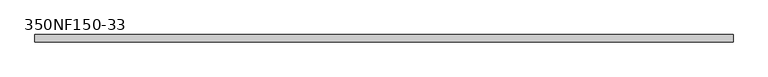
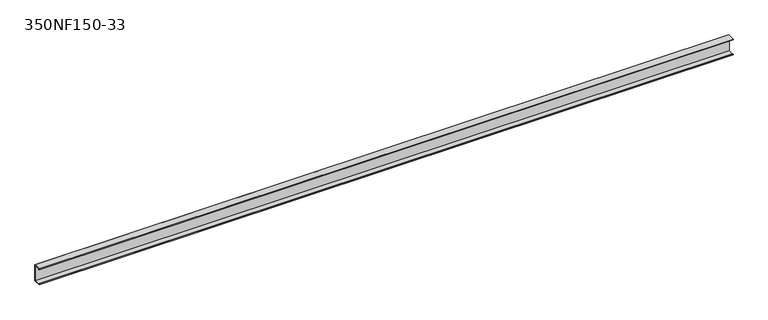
"""IFC4 building model written with IfcOpenShell, lengths in millimetres: beam geometry, BIMSF-SSMA-S : 350NF150-33."""

from ifc_helpers import new_model, si_unit, frame, origin, place, context, project, spatial, polyline, outline, extrude, source, transform, mapped, element, save


def beam_350nf150_33_a9979069(model_context):
    return source(origin(), model_context, "Body", "SweptSolid", [
        extrude(outline(polyline([(19.05, 44.45), (19.05, -44.45), (-19.05, -44.45), (-19.05, -39.6748), (-18.1676842, -39.6748), (-18.1676842, -43.5676842), (18.1676842, -43.5676842), (18.1676842, 43.5676842), (-18.1676842, 43.5676842), (-18.1676842, 39.6748), (-19.05, 39.6748), (-19.05, 44.45), (19.05, 44.45)])), frame((-1843.2130348, 0.0, 0.0), z_axis=(1.0, 0.0, 0.0), x_axis=(0.0, 1.0, 0.0)), (0.0, 0.0, 1.0), 3686.4260696),
    ])


if __name__ == "__main__":
    model = new_model("IFC4")
    model_context = context("Model", 3, world=origin())
    ifc_project = project(units=[si_unit("LENGTHUNIT", "METRE", prefix="MILLI")], contexts=[model_context])
    site = spatial("IfcSite", under=ifc_project)
    building = spatial("IfcBuilding", under=site)
    placement = place(None, origin())
    beam_350nf150_33_shape = beam_350nf150_33_a9979069(model_context)
    element("IfcBeam", 1, ObjectType="BIMSF-SSMA-S : 350NF150-33", at=placement, inside=building, context=model_context, shape_type="MappedRepresentation", body=[
        mapped(beam_350nf150_33_shape, transform((0.0, 0.0, 0.0), x_axis=(1.0, 0.0, 0.0), y_axis=(0.0, 1.0, 0.0), z_axis=(0.0, 0.0, 1.0))),
    ])
    save(model, "model.ifc")
